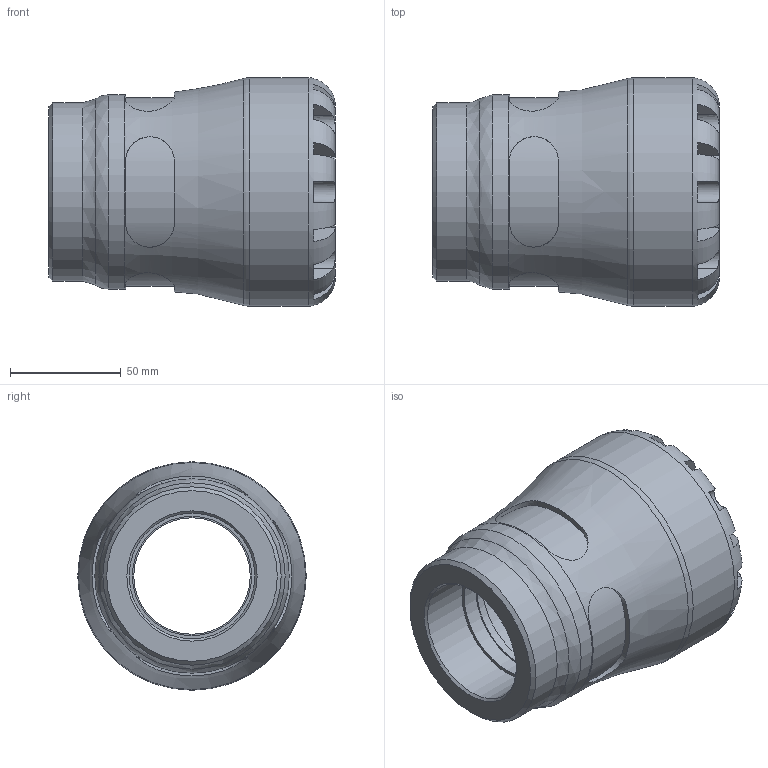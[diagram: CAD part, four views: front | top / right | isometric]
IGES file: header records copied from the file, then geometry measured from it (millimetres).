
Global section: file name: 1003G0063020_1903G0063020.ipt; native system: Autodesk Inventor 2015; preprocessor: unknown; author: KIM; date: 20190127.091401; units: millimetre
Bounding box: 129 x 103 x 103 mm (x, y, z)
Volume: 484995.3 mm3; surface area: 73594.8 mm2
Topology: 1 solids, 1 shells, 104 faces, 270 edges, 174 vertices
Faces by surface type: plane 61, revolution 27, cylinder 15, cone 1
Full cylindrical faces by diameter (mm): 80.34 x1, 87.55 x1, 103 x1
